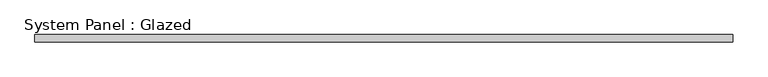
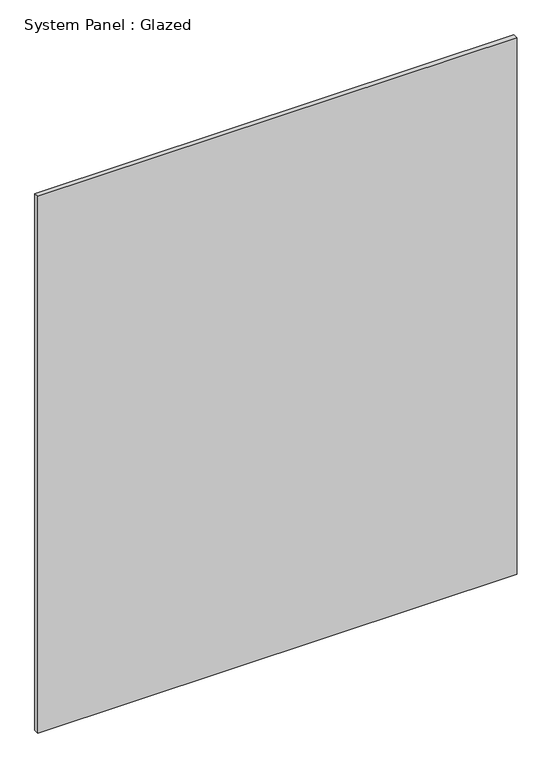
"""IFC4 building model written with IfcOpenShell, lengths in millimetres: plate geometry, System Panel : Glazed."""

from ifc_helpers import new_model, si_unit, origin, origin_with_axes, place, context, project, spatial, polyline, outline, extrude, source, transform, mapped, element, save


def system_panel_glazed_4b2e8b6a(model_context):
    return source(origin(), model_context, "Body", "SweptSolid", [
        extrude(outline(polyline([(1247.775, 19.05), (-1247.775, 19.05), (-1247.775, 44.45), (1247.775, 44.45), (1247.775, 19.05)])), origin_with_axes(), (0.0, 0.0, 1.0), 2952.75),
    ])


if __name__ == "__main__":
    model = new_model("IFC4")
    model_context = context("Model", 3, world=origin())
    ifc_project = project(units=[si_unit("LENGTHUNIT", "METRE", prefix="MILLI")], contexts=[model_context])
    site = spatial("IfcSite", under=ifc_project)
    building = spatial("IfcBuilding", under=site)
    placement = place(None, origin())
    system_panel_glazed_shape = system_panel_glazed_4b2e8b6a(model_context)
    element("IfcPlate", 1, ObjectType="System Panel : Glazed", at=placement, inside=building, context=model_context, shape_type="MappedRepresentation", body=[
        mapped(system_panel_glazed_shape, transform((0.0, 0.0, 0.0), x_axis=(1.0, 0.0, 0.0), y_axis=(0.0, 1.0, 0.0), z_axis=(0.0, 0.0, 1.0))),
    ])
    save(model, "model.ifc")
